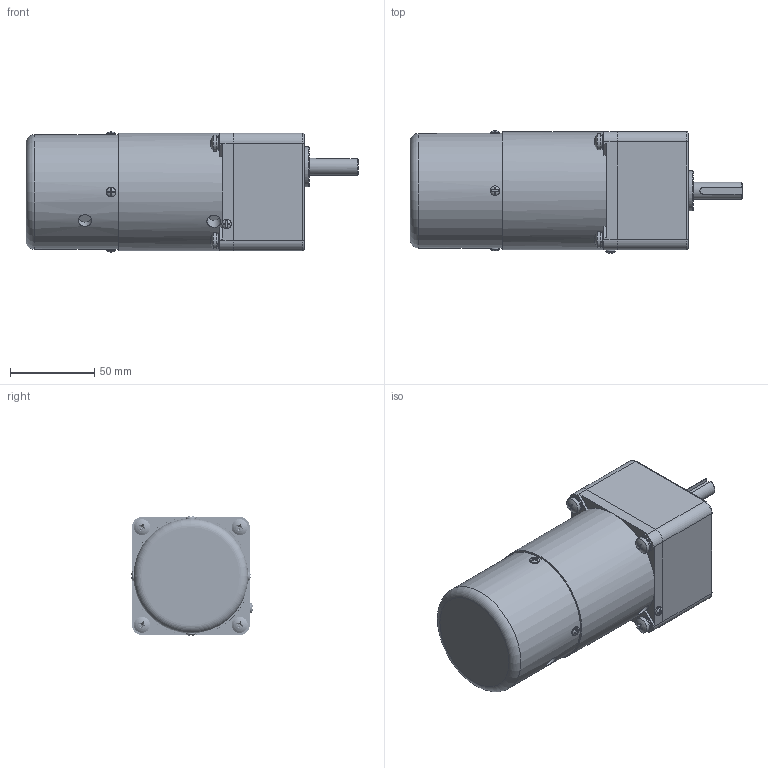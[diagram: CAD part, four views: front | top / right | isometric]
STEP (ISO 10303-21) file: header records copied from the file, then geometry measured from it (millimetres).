
FILE_DESCRIPTION(/* description */ (''),/* implementation_level */ '2;1');
FILE_NAME(/* name */ '70高箱L-15W刹车.stp',/* time_stamp */ '2022-10-31T08:53:14+08:00',/* author */ (''),/* organization */ (''),/* preprocessor_version */ 'ST-DEVELOPER v16.7',/* originating_system */ 'SIEMENS PLM Software NX 1899',/* authorisation */ '');
FILE_SCHEMA (('AP203_CONFIGURATION_CONTROLLED_3D_DESIGN_OF_MECHANICAL_PARTS_AND_ASSEMBLIES_MIM_LF { 1 0 10303 403 2 1 2}'));
Products named in the file (1): yf186188FEB6lc3n
Bounding box: 197 x 72.68 x 71.28 mm (x, y, z)
Volume: 676137.5 mm3; surface area: 67770.6 mm2
Topology: 14 solids, 19 shells, 379 faces, 942 edges, 621 vertices
Faces by surface type: plane 187, bspline 88, cylinder 77, torus 11, sphere 9, cone 7
Full cylindrical faces by diameter (mm): 2.7 x1, 4.826 x4, 5 x4, 5.3 x4, 5.6 x5, 6 x5, 8 x1, 8.3 x1, 9 x4, 9.5 x4, 10 x1, 24 x1, 63 x1, 66.6 x2, 68 x1, 70 x1
Entity records: 71335 total; most frequent: CARTESIAN_POINT 62974, ORIENTED_EDGE 1704, DIRECTION 1421, EDGE_CURVE 852, VERTEX_POINT 594, AXIS2_PLACEMENT_3D 557, EDGE_LOOP 485, ADVANCED_FACE 379
